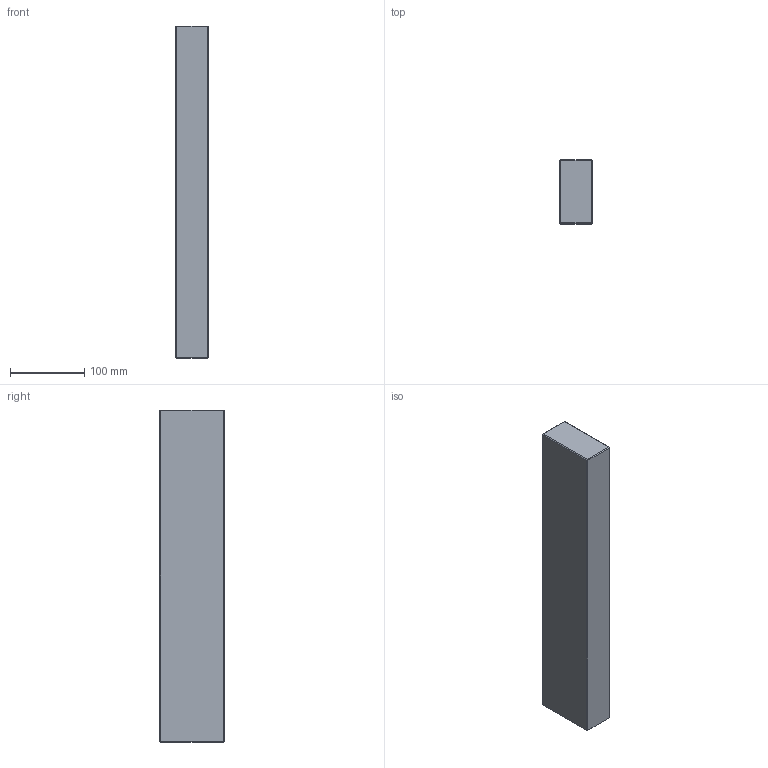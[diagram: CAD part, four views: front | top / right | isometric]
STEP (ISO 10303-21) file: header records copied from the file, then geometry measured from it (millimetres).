
FILE_DESCRIPTION (( 'STEP AP214' ), '1' );
FILE_NAME ('ESP-P-296X446x86.STEP', '2020-04-08T10:54:05', ( 'August' ), ( '' ), 'SwSTEP 2.0', 'SolidWorks 2018', '' );
FILE_SCHEMA (( 'AUTOMOTIVE_DESIGN' ));
Length unit declared in the file: millimetre
Products named in the file (1): ESP-P-296X446x86
Bounding box: 43 x 86 x 446 mm (x, y, z)
Volume: 1648163.3 mm3; surface area: 121113.7 mm2
Topology: 1 solids, 1 shells, 26 faces, 48 edges, 24 vertices
Faces by surface type: plane 26
Entity records: 634 total; most frequent: DIRECTION 102, CARTESIAN_POINT 99, ORIENTED_EDGE 96, LINE 48, EDGE_CURVE 48, VECTOR 48, AXIS2_PLACEMENT_3D 27, PLANE 26
